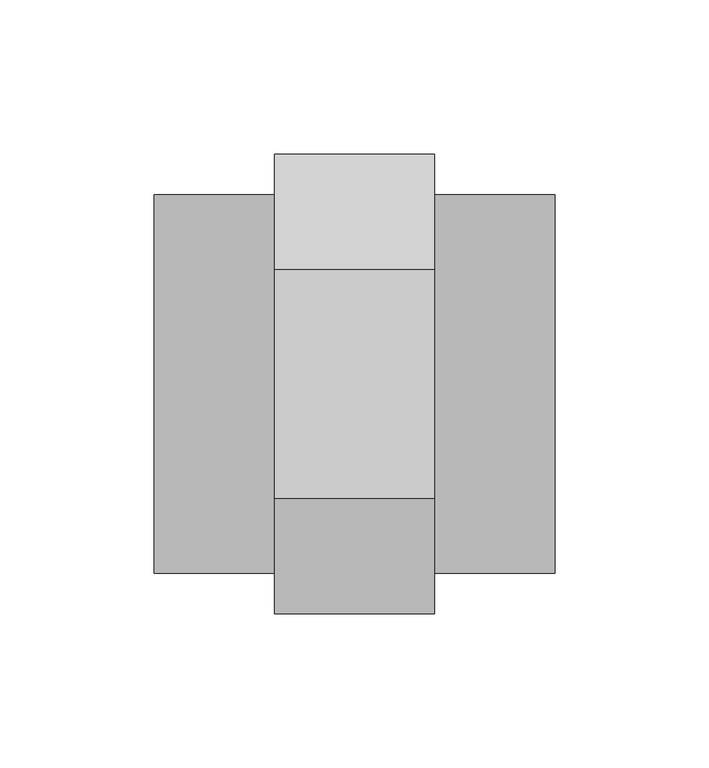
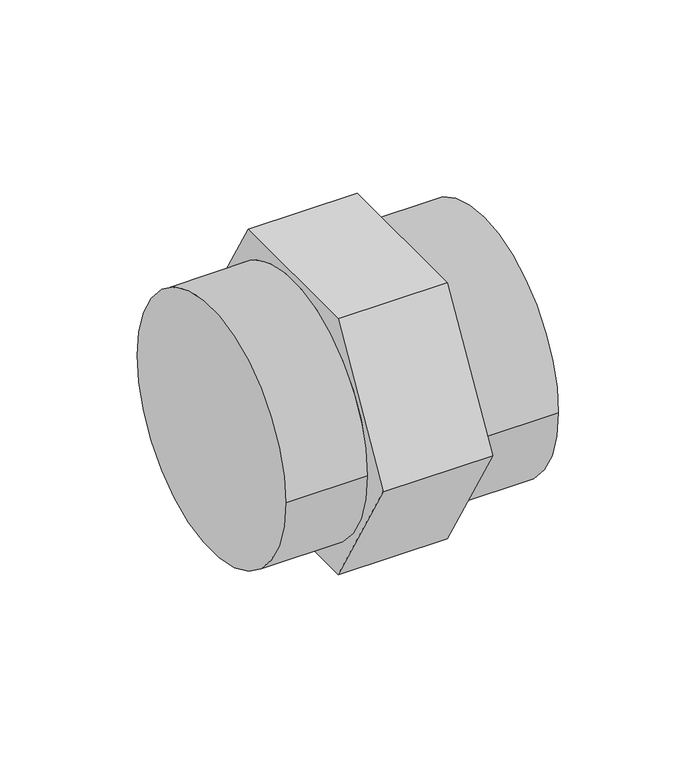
"""IFC4 building model written with IfcOpenShell, lengths in millimetres: pipe fitting geometry, 01011005 : Uniao Simples."""

from ifc_helpers import new_model, si_unit, frame, origin, place, context, project, spatial, circle_curve, source, transform, mapped, element, save
from ifc_brep_helpers import plane_surface, cylinder_surface, advanced_brep


def pipe_fitting_fa7e35da(model_context):
    return source(origin(), model_context, "Body", "AdvancedBrep", [
        advanced_brep(
        [(26.0, -37.2390924, 64.5), (26.0, -74.4781847, 0.0), (26.0, -37.2390924, -64.5), (26.0, 37.2390924, -64.5), (26.0, 74.4781847, 0.0), (26.0, 37.2390924, 64.5), (26.0, -61.275, 0.0), (26.0, 61.275, 0.0), (-26.0, -37.2390924, 64.5), (-26.0, 37.2390924, 64.5), (-26.0, 74.4781847, 0.0), (-26.0, 37.2390924, -64.5), (-26.0, -37.2390924, -64.5), (-26.0, -74.4781847, 0.0), (-26.0, 61.275, 0.0), (-26.0, -61.275, 0.0), (-65.0, -61.275, 0.0), (-65.0, 61.275, 0.0), (65.0, -61.275, 0.0), (65.0, 61.275, 0.0)],
        [
            (0, 1),
            (1, 2),
            (2, 3),
            (3, 4),
            (4, 5),
            (5, 0),
            (6, 7, circle_curve(frame((26.0, 0.0, 0.0), z_axis=(-1.0, 0.0, 0.0), x_axis=(0.0, 1.0, 0.0)), 61.275)),
            (7, 6, circle_curve(frame((26.0, 0.0, 0.0), z_axis=(-1.0, 0.0, 0.0), x_axis=(0.0, 1.0, 0.0)), 61.275)),
            (8, 9),
            (9, 10),
            (10, 11),
            (11, 12),
            (12, 13),
            (13, 8),
            (14, 15, circle_curve(frame((-26.0, 0.0, 0.0), z_axis=(1.0, 0.0, 0.0), x_axis=(0.0, 1.0, 0.0)), 61.275)),
            (15, 14, circle_curve(frame((-26.0, 0.0, 0.0), z_axis=(1.0, 0.0, 0.0), x_axis=(0.0, 1.0, 0.0)), 61.275)),
            (0, 8),
            (13, 1),
            (12, 2),
            (11, 3),
            (10, 4),
            (9, 5),
            (16, 17, circle_curve(frame((-65.0, 0.0, 0.0), z_axis=(-1.0, 0.0, 0.0), x_axis=(0.0, 1.0, 0.0)), 61.275)),
            (17, 16, circle_curve(frame((-65.0, 0.0, 0.0), z_axis=(-1.0, 0.0, 0.0), x_axis=(0.0, 1.0, 0.0)), 61.275)),
            (18, 19, circle_curve(frame((65.0, 0.0, 0.0), z_axis=(1.0, 0.0, 0.0), x_axis=(0.0, 1.0, 0.0)), 61.275)),
            (19, 18, circle_curve(frame((65.0, 0.0, 0.0), z_axis=(1.0, 0.0, 0.0), x_axis=(0.0, 1.0, 0.0)), 61.275)),
            (16, 15),
            (14, 17),
            (19, 7),
            (6, 18),
        ],
        [
            plane_surface(frame((26.0, -37.2390924, 64.5), z_axis=(1.0, 0.0, 0.0), x_axis=(0.0, -0.5000000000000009, -0.8660254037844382))),
            plane_surface(frame((-26.0, -37.2390924, 64.5), z_axis=(-1.0, 0.0, 0.0), x_axis=(0.0, 0.5000000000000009, 0.8660254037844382))),
            plane_surface(frame((26.0, -37.2390924, 64.5), z_axis=(0.0, -0.8660254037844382, 0.5000000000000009), x_axis=(-1.0, 0.0, 0.0))),
            plane_surface(frame((26.0, -74.4781847, 0.0), z_axis=(0.0, -0.866025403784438, -0.500000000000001), x_axis=(-1.0, 0.0, 0.0))),
            plane_surface(frame((26.0, -37.2390924, -64.5), z_axis=(0.0, 0.0, -1.0), x_axis=(-1.0, 0.0, 0.0))),
            plane_surface(frame((26.0, 37.2390924, -64.5), z_axis=(0.0, 0.8660254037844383, -0.5000000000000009), x_axis=(-1.0, 0.0, 0.0))),
            plane_surface(frame((26.0, 74.4781847, 0.0), z_axis=(0.0, 0.8660254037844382, 0.500000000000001), x_axis=(-1.0, 0.0, 0.0))),
            plane_surface(frame((26.0, 37.2390924, 64.5), z_axis=(0.0, 0.0, 1.0), x_axis=(-1.0, 0.0, 0.0))),
            plane_surface(frame((-65.0, 0.0, 0.0), z_axis=(-1.0, 0.0, 0.0), x_axis=(0.0, 0.0, 1.0))),
            plane_surface(frame((65.0, 0.0, 0.0), z_axis=(1.0, 0.0, 0.0), x_axis=(0.0, 0.0, 1.0))),
            cylinder_surface(frame((-65.0, 0.0, 0.0), z_axis=(-1.0, 0.0, 0.0), x_axis=(0.0, 1.0, 0.0)), 61.275),
        ],
        [
            (0, [[1, 2, 3, 4, 5, 6], [7, 8]]),
            (1, [[9, 10, 11, 12, 13, 14], [15, 16]]),
            (2, [[-1, 17, -14, 18]]),
            (3, [[-2, -18, -13, 19]]),
            (4, [[-3, -19, -12, 20]]),
            (5, [[-4, -20, -11, 21]]),
            (6, [[-5, -21, -10, 22]]),
            (7, [[-6, -22, -9, -17]]),
            (8, [[23, 24]]),
            (9, [[25, 26]]),
            (10, [[-23, 27, -15, 28]]),
            (10, [[-26, 29, -7, 30]]),
            (10, [[-24, -28, -16, -27]]),
            (10, [[-25, -30, -8, -29]]),
        ],
    ),
    ])


if __name__ == "__main__":
    model = new_model("IFC4")
    model_context = context("Model", 3, world=origin())
    ifc_project = project(units=[si_unit("LENGTHUNIT", "METRE", prefix="MILLI")], contexts=[model_context])
    site = spatial("IfcSite", under=ifc_project)
    building = spatial("IfcBuilding", under=site)
    placement = place(None, origin())
    pipe_fitting_shape = pipe_fitting_fa7e35da(model_context)
    element("IfcPipeFitting", 1, ObjectType="01011005 : Uniao Simples", at=placement, inside=building, context=model_context, shape_type="MappedRepresentation", body=[
        mapped(pipe_fitting_shape, transform((0.0, 0.0, 0.0), x_axis=(1.0, 0.0, 0.0), y_axis=(0.0, 1.0, 0.0), z_axis=(0.0, 0.0, 1.0))),
    ])
    save(model, "model.ifc")
